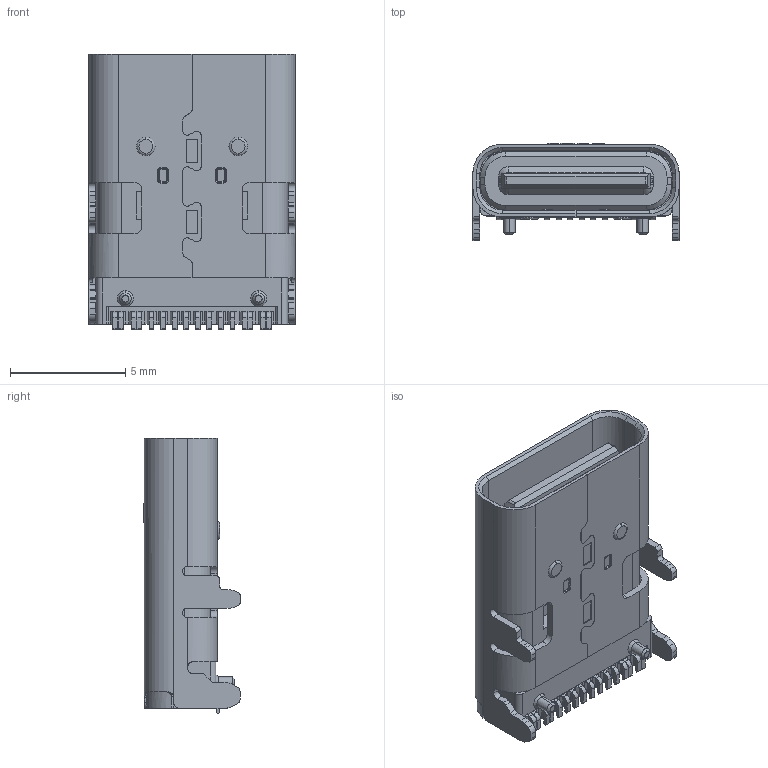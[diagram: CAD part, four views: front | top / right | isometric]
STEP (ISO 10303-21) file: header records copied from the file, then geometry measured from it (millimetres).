
FILE_DESCRIPTION (( 'STEP AP214' ), '1' );
FILE_NAME ('U5101-16PN11.7L.STEP', '2026-07-28T05:56:08', ( '' ), ( '' ), 'SwSTEP 2.0', 'SolidWorks 2024', '' );
FILE_SCHEMA (( 'AUTOMOTIVE_DESIGN' ));
Length unit declared in the file: millimetre
Products named in the file (1): U5101-16PN11.7L
Bounding box: 8.94 x 4.19 x 11.95 mm (x, y, z)
Volume: 218.8 mm3; surface area: 747.6 mm2
Topology: 1 solids, 23 shells, 1061 faces, 2877 edges, 1866 vertices
Faces by surface type: plane 728, cylinder 242, bspline 37, cone 30, torus 24
Entity records: 35234 total; most frequent: CARTESIAN_POINT 8652, ORIENTED_EDGE 5754, DIRECTION 5197, EDGE_CURVE 2877, LINE 2075, VECTOR 2075, VERTEX_POINT 1866, AXIS2_PLACEMENT_3D 1561
